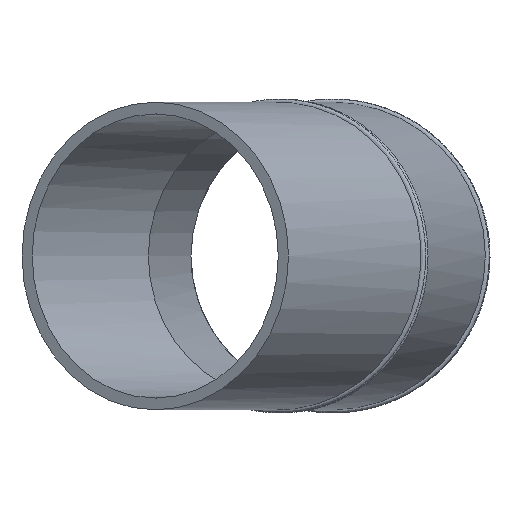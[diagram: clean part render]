
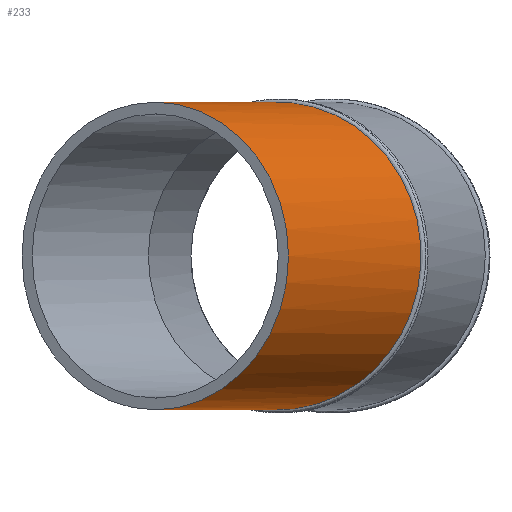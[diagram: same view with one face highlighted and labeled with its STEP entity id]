
A CAD part, front view. The second image highlights one B-rep face of the part: STEP entity #233.
In plain terms, the highlighted cylindrical face has radius 200 mm (diameter 400 mm), a full revolution.
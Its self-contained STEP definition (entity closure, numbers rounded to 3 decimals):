
#37=B_SPLINE_CURVE_WITH_KNOTS('',3,(#396,#397,#398,#399,#400,#401,#402,
#403,#404,#405,#406,#407,#408,#409,#410,#411,#412,#413,#414,#415,#416,#417,
#418,#419,#420,#421,#422,#423,#424,#425,#426,#427,#428,#429,#430,#431,#432,
#433,#434,#435,#436,#437,#438,#439,#440,#441,#442,#443,#444,#445,#446,#447,
#448,#449,#450,#451,#452,#453,#454,#455,#456,#457,#458,#459,#460,#461,#462,
#463,#464,#465,#466,#467,#468,#469,#470,#471,#472,#473,#474,#475,#476,#477,
#478,#479,#480,#481,#482),.UNSPECIFIED.,.T.,.F.,(1,1,1,1,1,1,1,1,1,1,1,
1,1,1,1,1,1,1,1,1,1,1,1,1,1,1,1,1,1,1,1,1,1,1,1,1,1,1,1,1,1,1,1,1,1,1,1,
1,1,1,1,1,1,1,1,1,1,1,1,1,1,1,1,1,1,1,1,1,1,1,1,1,1,1,1,1,1,1,1,1,1,1,1,
1,1,1,1,1,1,1,1),(-0.059,-0.04,-0.02,
0.,0.02,0.03,0.04,
0.05,0.059,0.079,0.099,
0.109,0.119,0.129,0.139,
0.149,0.158,0.178,0.198,
0.218,0.238,0.257,0.267,
0.277,0.297,0.317,0.337,
0.347,0.357,0.366,0.376,
0.396,0.416,0.436,0.446,
0.456,0.475,0.495,0.505,
0.515,0.535,0.555,0.574,
0.584,0.594,0.604,0.614,
0.634,0.654,0.673,0.693,
0.703,0.713,0.733,0.753,
0.772,0.782,0.792,0.812,
0.832,0.852,0.871,0.891,
0.901,0.911,0.921,0.931,
0.951,0.97,0.99,1.01,1.02,
1.03,1.04,1.05,1.07,1.089,
1.109,1.129,1.139,1.149,1.159,
1.169,1.188,1.208,1.228,1.248,
1.268,1.287,1.297,1.307),
 .UNSPECIFIED.);
#46=CYLINDRICAL_SURFACE('',#283,200.);
#78=ORIENTED_EDGE('',*,*,#130,.T.);
#79=ORIENTED_EDGE('',*,*,#123,.F.);
#123=EDGE_CURVE('',#149,#149,#169,.T.);
#130=EDGE_CURVE('',#156,#156,#37,.T.);
#149=VERTEX_POINT('',#381);
#156=VERTEX_POINT('',#483);
#169=CIRCLE('',#275,200.);
#175=EDGE_LOOP('',(#78));
#176=EDGE_LOOP('',(#79));
#203=FACE_BOUND('',#175,.T.);
#204=FACE_BOUND('',#176,.T.);
#233=ADVANCED_FACE('',(#203,#204),#46,.T.);
#275=AXIS2_PLACEMENT_3D('',#380,#312,#313);
#283=AXIS2_PLACEMENT_3D('',#395,#328,#329);
#312=DIRECTION('',(0.,1.,0.));
#313=DIRECTION('',(-1.,0.,0.));
#328=DIRECTION('',(0.,1.,0.));
#329=DIRECTION('',(-1.,0.,0.));
#380=CARTESIAN_POINT('',(997.554,195.,0.));
#381=CARTESIAN_POINT('',(797.554,195.,0.));
#395=CARTESIAN_POINT('',(997.554,-157.661,0.));
#396=CARTESIAN_POINT('',(798.207,-97.051,-19.772));
#397=CARTESIAN_POINT('',(797.227,-96.922,-0.009));
#398=CARTESIAN_POINT('',(798.046,-97.03,16.504));
#399=CARTESIAN_POINT('',(799.668,-97.243,29.558));
#400=CARTESIAN_POINT('',(801.371,-97.467,39.305));
#401=CARTESIAN_POINT('',(803.552,-97.753,48.944));
#402=CARTESIAN_POINT('',(807.061,-98.214,61.536));
#403=CARTESIAN_POINT('',(812.568,-98.937,76.855));
#404=CARTESIAN_POINT('',(819.546,-99.854,91.589));
#405=CARTESIAN_POINT('',(826.05,-100.708,103.049));
#406=CARTESIAN_POINT('',(831.335,-101.402,111.371));
#407=CARTESIAN_POINT('',(837.012,-102.148,119.409));
#408=CARTESIAN_POINT('',(843.089,-102.946,127.174));
#409=CARTESIAN_POINT('',(849.544,-103.795,134.63));
#410=CARTESIAN_POINT('',(858.594,-104.984,144.102));
#411=CARTESIAN_POINT('',(870.802,-106.588,155.122));
#412=CARTESIAN_POINT('',(886.599,-108.664,166.788));
#413=CARTESIAN_POINT('',(903.52,-110.889,176.876));
#414=CARTESIAN_POINT('',(921.087,-113.199,185.142));
#415=CARTESIAN_POINT('',(936.319,-115.203,190.588));
#416=CARTESIAN_POINT('',(948.847,-116.851,194.061));
#417=CARTESIAN_POINT('',(961.633,-118.533,196.938));
#418=CARTESIAN_POINT('',(977.761,-120.656,199.34));
#419=CARTESIAN_POINT('',(997.399,-123.241,200.32));
#420=CARTESIAN_POINT('',(1013.685,-125.385,199.536));
#421=CARTESIAN_POINT('',(1026.689,-127.098,197.948));
#422=CARTESIAN_POINT('',(1036.336,-128.369,196.285));
#423=CARTESIAN_POINT('',(1045.89,-129.627,194.154));
#424=CARTESIAN_POINT('',(1058.522,-131.291,190.677));
#425=CARTESIAN_POINT('',(1073.904,-133.318,185.201));
#426=CARTESIAN_POINT('',(1091.716,-135.666,176.811));
#427=CARTESIAN_POINT('',(1105.743,-137.515,168.436));
#428=CARTESIAN_POINT('',(1116.498,-138.933,160.887));
#429=CARTESIAN_POINT('',(1126.798,-140.291,152.873));
#430=CARTESIAN_POINT('',(1138.835,-141.879,142.006));
#431=CARTESIAN_POINT('',(1149.769,-143.321,130.018));
#432=CARTESIAN_POINT('',(1157.842,-144.386,119.75));
#433=CARTESIAN_POINT('',(1165.466,-145.392,109.002));
#434=CARTESIAN_POINT('',(1173.943,-146.51,94.956));
#435=CARTESIAN_POINT('',(1182.457,-147.634,77.079));
#436=CARTESIAN_POINT('',(1188.026,-148.369,61.616));
#437=CARTESIAN_POINT('',(1191.569,-148.836,48.897));
#438=CARTESIAN_POINT('',(1193.743,-149.123,39.273));
#439=CARTESIAN_POINT('',(1195.442,-149.348,29.551));
#440=CARTESIAN_POINT('',(1197.068,-149.562,16.439));
#441=CARTESIAN_POINT('',(1197.881,-149.67,0.014));
#442=CARTESIAN_POINT('',(1196.896,-149.539,-19.804));
#443=CARTESIAN_POINT('',(1194.008,-149.159,-39.146));
#444=CARTESIAN_POINT('',(1190.054,-148.636,-54.938));
#445=CARTESIAN_POINT('',(1185.958,-148.096,-67.354));
#446=CARTESIAN_POINT('',(1181.212,-147.47,-79.66));
#447=CARTESIAN_POINT('',(1174.183,-146.542,-94.51));
#448=CARTESIAN_POINT('',(1163.999,-145.198,-111.471));
#449=CARTESIAN_POINT('',(1154.216,-143.907,-124.63));
#450=CARTESIAN_POINT('',(1145.604,-142.771,-134.587));
#451=CARTESIAN_POINT('',(1136.553,-141.578,-144.065));
#452=CARTESIAN_POINT('',(1124.359,-139.969,-155.079));
#453=CARTESIAN_POINT('',(1108.56,-137.886,-166.754));
#454=CARTESIAN_POINT('',(1091.629,-135.654,-176.855));
#455=CARTESIAN_POINT('',(1074.031,-133.335,-185.139));
#456=CARTESIAN_POINT('',(1058.81,-131.329,-190.581));
#457=CARTESIAN_POINT('',(1046.306,-129.682,-194.049));
#458=CARTESIAN_POINT('',(1036.743,-128.422,-196.205));
#459=CARTESIAN_POINT('',(1027.074,-127.149,-197.89));
#460=CARTESIAN_POINT('',(1014.133,-125.444,-199.499));
#461=CARTESIAN_POINT('',(997.77,-123.29,-200.32));
#462=CARTESIAN_POINT('',(978.218,-120.716,-199.385));
#463=CARTESIAN_POINT('',(958.768,-118.156,-196.53));
#464=CARTESIAN_POINT('',(942.929,-116.072,-192.59));
#465=CARTESIAN_POINT('',(930.478,-114.435,-188.502));
#466=CARTESIAN_POINT('',(921.333,-113.232,-184.993));
#467=CARTESIAN_POINT('',(912.364,-112.052,-181.039));
#468=CARTESIAN_POINT('',(900.632,-110.51,-175.161));
#469=CARTESIAN_POINT('',(886.601,-108.665,-166.789));
#470=CARTESIAN_POINT('',(870.731,-106.579,-155.062));
#471=CARTESIAN_POINT('',(856.28,-104.68,-142.012));
#472=CARTESIAN_POINT('',(845.35,-103.243,-130.03));
#473=CARTESIAN_POINT('',(837.293,-102.185,-119.785));
#474=CARTESIAN_POINT('',(831.585,-101.435,-111.745));
#475=CARTESIAN_POINT('',(826.277,-100.738,-103.423));
#476=CARTESIAN_POINT('',(819.77,-99.883,-92.025));
#477=CARTESIAN_POINT('',(812.672,-98.951,-77.129));
#478=CARTESIAN_POINT('',(805.983,-98.072,-58.57));
#479=CARTESIAN_POINT('',(801.132,-97.435,-39.362));
#480=CARTESIAN_POINT('',(798.207,-97.051,-19.772));
#481=CARTESIAN_POINT('',(797.227,-96.922,-0.009));
#482=CARTESIAN_POINT('',(798.046,-97.03,16.504));
#483=CARTESIAN_POINT('',(797.554,-96.965,0.));
